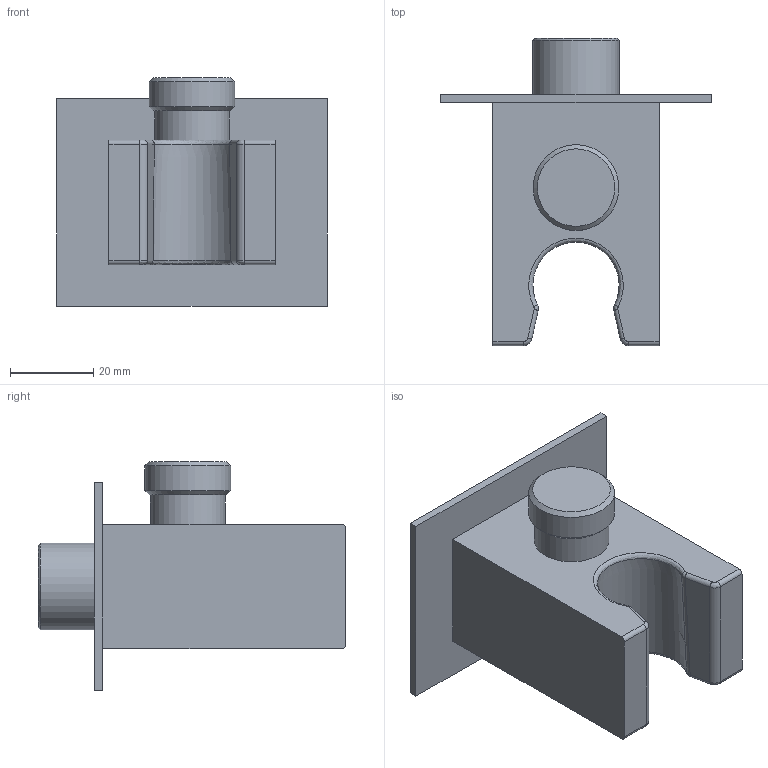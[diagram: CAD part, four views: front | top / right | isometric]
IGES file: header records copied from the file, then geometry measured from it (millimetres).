
Global section: file name: No Iges File Name specified; native system: AutoDesk Inventor R6.1; preprocessor: AutoDesk Inventor Iges Exporter R6.1; author: No Author specified; organization: No Organization specified; date: 20081107.153844; units: millimetre
Bounding box: 65 x 74 x 55 mm (x, y, z)
Surface area: 17597.4 mm2 (no closed solid volume)
Topology: 0 solids, 0 shells, 53 faces, 253 edges, 242 vertices
Faces by surface type: revolution 23, plane 19, bspline 11
